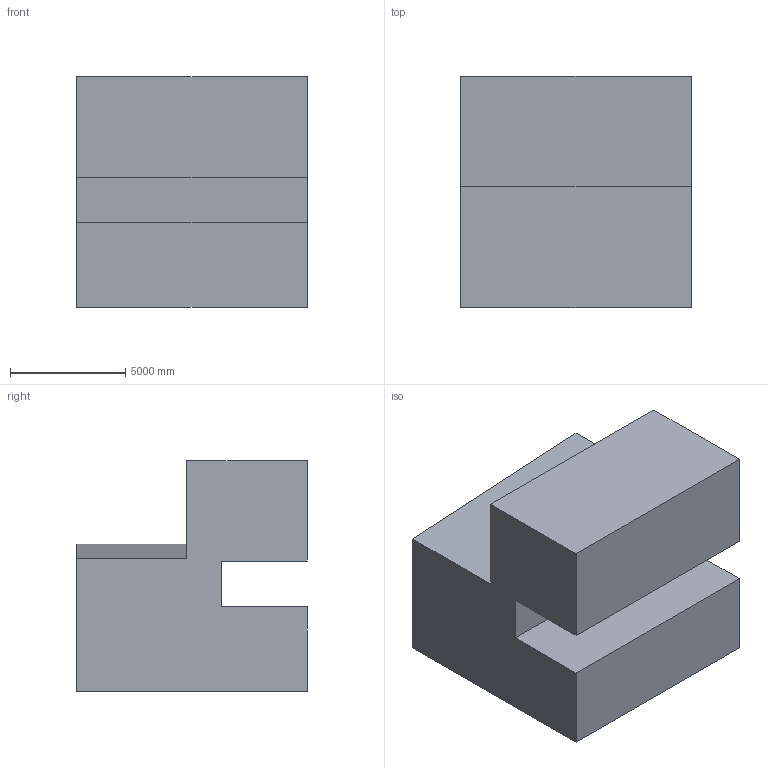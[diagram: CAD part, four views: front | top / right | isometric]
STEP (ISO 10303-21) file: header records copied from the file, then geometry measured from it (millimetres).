
FILE_DESCRIPTION (( 'STEP AP203' ), '1' );
FILE_NAME ('123.STEP', '2022-09-06T15:08:27', ( 'user' ), ( '' ), 'SwSTEP 2.0', 'SolidWorks 2021', '' );
FILE_SCHEMA (( 'CONFIG_CONTROL_DESIGN' ));
Length unit declared in the file: centimetre
Products named in the file (1): 123
Bounding box: 10000 x 10000 x 10000 mm (x, y, z)
Volume: 733669267459 mm3; surface area: 629326547.7 mm2
Topology: 1 solids, 1 shells, 19 faces, 48 edges, 32 vertices
Faces by surface type: plane 19
Entity records: 639 total; most frequent: CARTESIAN_POINT 100, ORIENTED_EDGE 96, DIRECTION 88, EDGE_CURVE 48, VECTOR 48, LINE 48, VERTEX_POINT 32, AXIS2_PLACEMENT_3D 20
